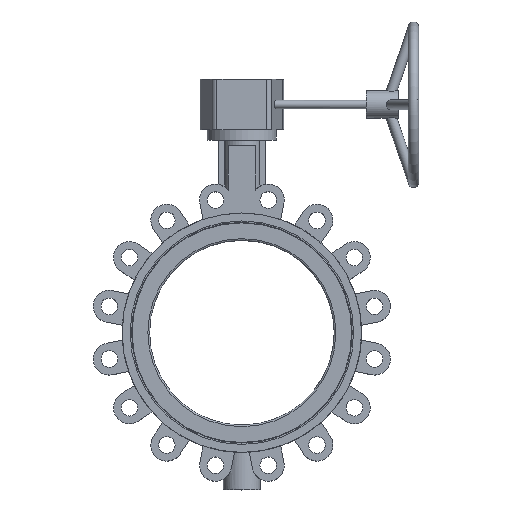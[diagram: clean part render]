
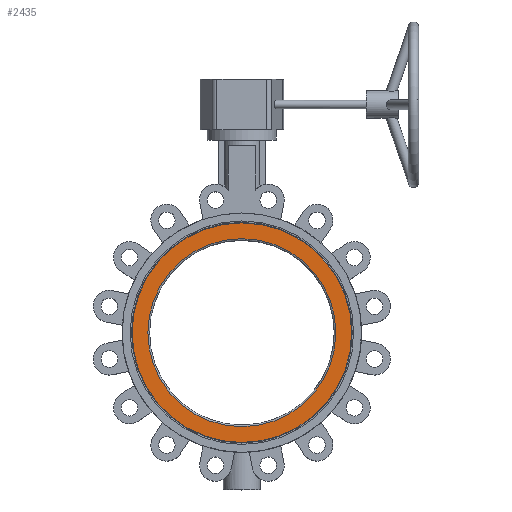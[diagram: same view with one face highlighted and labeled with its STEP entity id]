
A CAD part, top view. The second image highlights one B-rep face of the part: STEP entity #2435.
In plain terms, the highlighted planar face has unit normal (0, 0, 1) as drawn and (-1, 0, 0) by its records, which use the part's own axes.
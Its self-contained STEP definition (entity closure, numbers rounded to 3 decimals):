
#126 = CARTESIAN_POINT ( 'NONE',  ( -41., 199., 0. ) ) ;
#167 = PLANE ( 'NONE',  #604 ) ;
#546 = EDGE_CURVE ( 'NONE', #2132, #2132, #6495, .T. ) ;
#574 = FACE_OUTER_BOUND ( 'NONE', #7290, .T. ) ;
#604 = AXIS2_PLACEMENT_3D ( 'NONE', #126, #931, #5678 ) ;
#888 = CARTESIAN_POINT ( 'NONE',  ( -41., 0., 170.374 ) ) ;
#931 = DIRECTION ( 'NONE',  ( 1., 0., 0. ) ) ;
#975 = FACE_BOUND ( 'NONE', #10201, .T. ) ;
#1604 = AXIS2_PLACEMENT_3D ( 'NONE', #6780, #6033, #6757 ) ;
#2132 = VERTEX_POINT ( 'NONE', #7685 ) ;
#2435 = ADVANCED_FACE ( 'NONE', ( #975, #574 ), #167, .F. ) ;
#2587 = DIRECTION ( 'NONE',  ( 0., 0., 1. ) ) ;
#2857 = VERTEX_POINT ( 'NONE', #888 ) ;
#2986 = CIRCLE ( 'NONE', #1604, 170.374 ) ;
#4820 = DIRECTION ( 'NONE',  ( -1., 0., 0. ) ) ;
#5678 = DIRECTION ( 'NONE',  ( 0., 0., -1. ) ) ;
#6033 = DIRECTION ( 'NONE',  ( -1., 0., 0. ) ) ;
#6403 = CARTESIAN_POINT ( 'NONE',  ( -41., 0., 0. ) ) ;
#6495 = CIRCLE ( 'NONE', #10292, 199. ) ;
#6663 = ORIENTED_EDGE ( 'NONE', *, *, #546, .T. ) ;
#6757 = DIRECTION ( 'NONE',  ( 0., 0., 1. ) ) ;
#6780 = CARTESIAN_POINT ( 'NONE',  ( -41., 0., 0. ) ) ;
#7290 = EDGE_LOOP ( 'NONE', ( #6663 ) ) ;
#7685 = CARTESIAN_POINT ( 'NONE',  ( -41., 0., 199. ) ) ;
#9828 = EDGE_CURVE ( 'NONE', #2857, #2857, #2986, .T. ) ;
#10046 = ORIENTED_EDGE ( 'NONE', *, *, #9828, .F. ) ;
#10201 = EDGE_LOOP ( 'NONE', ( #10046 ) ) ;
#10292 = AXIS2_PLACEMENT_3D ( 'NONE', #6403, #4820, #2587 ) ;
